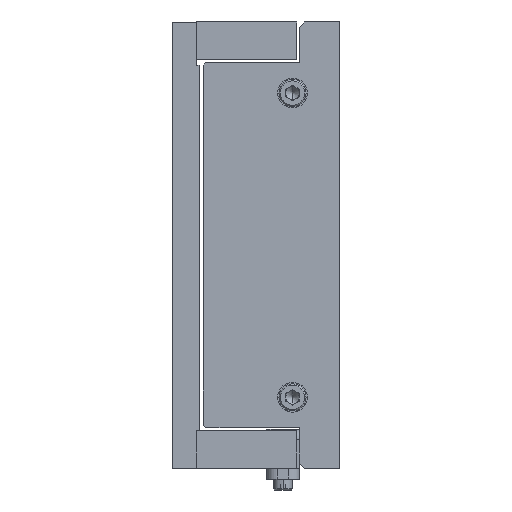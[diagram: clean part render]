
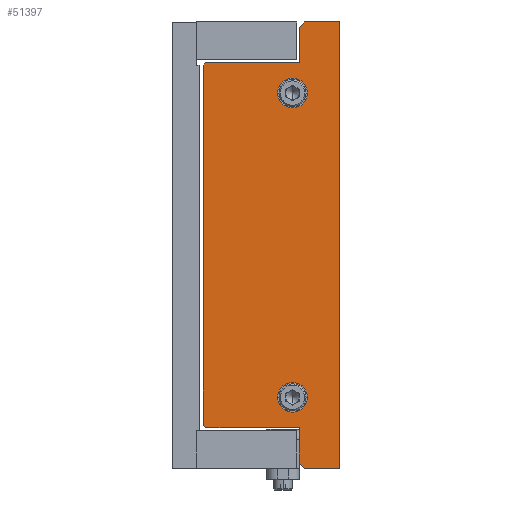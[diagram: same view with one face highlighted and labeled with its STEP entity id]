
A CAD part, left-side view. The second image highlights one B-rep face of the part: STEP entity #51397.
In plain terms, the highlighted planar face has unit normal (-1, 0, 0).
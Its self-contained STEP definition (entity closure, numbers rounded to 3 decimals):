
#367 = LINE ( 'NONE', #48267, #39254 ) ;
#448 = CARTESIAN_POINT ( 'NONE',  ( -190., 0.25, -82.5 ) ) ;
#1131 = DIRECTION ( 'NONE',  ( 0., 0., -1. ) ) ;
#1176 = VECTOR ( 'NONE', #30375, 1000. ) ;
#1195 = LINE ( 'NONE', #3545, #44614 ) ;
#1256 = CARTESIAN_POINT ( 'NONE',  ( -190., 13.05, 82.5 ) ) ;
#1514 = ORIENTED_EDGE ( 'NONE', *, *, #10775, .T. ) ;
#1838 = PLANE ( 'NONE',  #33743 ) ;
#2064 = VERTEX_POINT ( 'NONE', #3145 ) ;
#2677 = CARTESIAN_POINT ( 'NONE',  ( -190., 15., 67.5 ) ) ;
#2994 = ORIENTED_EDGE ( 'NONE', *, *, #3773, .T. ) ;
#3009 = LINE ( 'NONE', #26426, #5685 ) ;
#3145 = CARTESIAN_POINT ( 'NONE',  ( -190., 15., -80.55 ) ) ;
#3545 = CARTESIAN_POINT ( 'NONE',  ( -190., 15., 80.55 ) ) ;
#3636 = CARTESIAN_POINT ( 'NONE',  ( -190., 17.5, 56.25 ) ) ;
#3700 = DIRECTION ( 'NONE',  ( 0., 0., -1. ) ) ;
#3773 = EDGE_CURVE ( 'NONE', #25028, #47705, #367, .T. ) ;
#3816 = EDGE_CURVE ( 'NONE', #13489, #48065, #24059, .T. ) ;
#3974 = EDGE_CURVE ( 'NONE', #32602, #8993, #47093, .T. ) ;
#4600 = EDGE_CURVE ( 'NONE', #19305, #5435, #14645, .T. ) ;
#5091 = CARTESIAN_POINT ( 'NONE',  ( -190., 13.05, -82.5 ) ) ;
#5244 = CARTESIAN_POINT ( 'NONE',  ( -190., 17.5, -61.75 ) ) ;
#5377 = VECTOR ( 'NONE', #19258, 1000. ) ;
#5435 = VERTEX_POINT ( 'NONE', #25212 ) ;
#5685 = VECTOR ( 'NONE', #51818, 1000. ) ;
#6531 = VERTEX_POINT ( 'NONE', #8690 ) ;
#6757 = EDGE_CURVE ( 'NONE', #48065, #44880, #24448, .T. ) ;
#8468 = ORIENTED_EDGE ( 'NONE', *, *, #38602, .F. ) ;
#8690 = CARTESIAN_POINT ( 'NONE',  ( -190., 15., 80.55 ) ) ;
#8993 = VERTEX_POINT ( 'NONE', #21315 ) ;
#9022 = ORIENTED_EDGE ( 'NONE', *, *, #3816, .T. ) ;
#9173 = LINE ( 'NONE', #34431, #1176 ) ;
#9933 = LINE ( 'NONE', #40629, #5377 ) ;
#10765 = EDGE_LOOP ( 'NONE', ( #38325, #19122 ) ) ;
#10775 = EDGE_CURVE ( 'NONE', #26984, #47850, #3009, .T. ) ;
#10781 = ORIENTED_EDGE ( 'NONE', *, *, #3974, .T. ) ;
#11080 = LINE ( 'NONE', #13517, #54561 ) ;
#11762 = LINE ( 'NONE', #28450, #23531 ) ;
#12239 = AXIS2_PLACEMENT_3D ( 'NONE', #3636, #49614, #28637 ) ;
#12394 = ORIENTED_EDGE ( 'NONE', *, *, #6757, .T. ) ;
#12640 = EDGE_CURVE ( 'NONE', #47850, #32602, #9933, .T. ) ;
#13272 = VECTOR ( 'NONE', #44802, 1000. ) ;
#13489 = VERTEX_POINT ( 'NONE', #5091 ) ;
#13517 = CARTESIAN_POINT ( 'NONE',  ( -190., 15., 67.5 ) ) ;
#13751 = EDGE_CURVE ( 'NONE', #17470, #6531, #1195, .T. ) ;
#14645 = CIRCLE ( 'NONE', #12239, 5.5 ) ;
#15113 = ORIENTED_EDGE ( 'NONE', *, *, #39571, .T. ) ;
#16528 = LINE ( 'NONE', #47569, #46754 ) ;
#17265 = CARTESIAN_POINT ( 'NONE',  ( -190., 17.5, -56.25 ) ) ;
#17470 = VERTEX_POINT ( 'NONE', #1256 ) ;
#17569 = DIRECTION ( 'NONE',  ( 0., 0., 1. ) ) ;
#17673 = FACE_BOUND ( 'NONE', #10765, .T. ) ;
#18228 = DIRECTION ( 'NONE',  ( 0., 0., -1. ) ) ;
#19122 = ORIENTED_EDGE ( 'NONE', *, *, #31340, .F. ) ;
#19253 = AXIS2_PLACEMENT_3D ( 'NONE', #20908, #20549, #32814 ) ;
#19258 = DIRECTION ( 'NONE',  ( 0., 0.707, -0.707 ) ) ;
#19305 = VERTEX_POINT ( 'NONE', #51132 ) ;
#19664 = DIRECTION ( 'NONE',  ( 0., -0.707, -0.707 ) ) ;
#19707 = ORIENTED_EDGE ( 'NONE', *, *, #22516, .T. ) ;
#19756 = DIRECTION ( 'NONE',  ( 0., 0., -1. ) ) ;
#19777 = CIRCLE ( 'NONE', #48790, 5.5 ) ;
#19891 = ORIENTED_EDGE ( 'NONE', *, *, #39266, .F. ) ;
#20442 = ORIENTED_EDGE ( 'NONE', *, *, #13751, .T. ) ;
#20549 = DIRECTION ( 'NONE',  ( -1., 0., 0. ) ) ;
#20861 = VERTEX_POINT ( 'NONE', #5244 ) ;
#20908 = CARTESIAN_POINT ( 'NONE',  ( -190., 17.5, 56.25 ) ) ;
#21156 = DIRECTION ( 'NONE',  ( 0., 0., 1. ) ) ;
#21315 = CARTESIAN_POINT ( 'NONE',  ( -190., 50.5, -66.5 ) ) ;
#21348 = CARTESIAN_POINT ( 'NONE',  ( -190., 50.5, -66.5 ) ) ;
#21486 = LINE ( 'NONE', #32603, #39917 ) ;
#22516 = EDGE_CURVE ( 'NONE', #6531, #26984, #11080, .T. ) ;
#22531 = DIRECTION ( 'NONE',  ( 0., -1., 0. ) ) ;
#22632 = DIRECTION ( 'NONE',  ( 1., 0., 0. ) ) ;
#23531 = VECTOR ( 'NONE', #19664, 1000. ) ;
#23559 = FACE_OUTER_BOUND ( 'NONE', #32639, .T. ) ;
#24059 = LINE ( 'NONE', #35570, #49089 ) ;
#24448 = LINE ( 'NONE', #40661, #13272 ) ;
#25028 = VERTEX_POINT ( 'NONE', #41705 ) ;
#25212 = CARTESIAN_POINT ( 'NONE',  ( -190., 17.5, 50.75 ) ) ;
#26426 = CARTESIAN_POINT ( 'NONE',  ( -190., 49.5, 67.5 ) ) ;
#26984 = VERTEX_POINT ( 'NONE', #2677 ) ;
#27254 = CARTESIAN_POINT ( 'NONE',  ( -190., 50.5, 66.5 ) ) ;
#27878 = ORIENTED_EDGE ( 'NONE', *, *, #44009, .T. ) ;
#28133 = ORIENTED_EDGE ( 'NONE', *, *, #35623, .T. ) ;
#28450 = CARTESIAN_POINT ( 'NONE',  ( -190., 49.5, -67.5 ) ) ;
#28637 = DIRECTION ( 'NONE',  ( 0., 0., 1. ) ) ;
#30375 = DIRECTION ( 'NONE',  ( 0., 1., 0. ) ) ;
#30811 = DIRECTION ( 'NONE',  ( 0., -0.707, -0.707 ) ) ;
#31340 = EDGE_CURVE ( 'NONE', #5435, #19305, #50835, .T. ) ;
#31759 = CARTESIAN_POINT ( 'NONE',  ( -190., 17.5, -50.75 ) ) ;
#32602 = VERTEX_POINT ( 'NONE', #27254 ) ;
#32603 = CARTESIAN_POINT ( 'NONE',  ( -190., 15., -80.55 ) ) ;
#32639 = EDGE_LOOP ( 'NONE', ( #12394, #28133, #20442, #19707, #1514, #43346, #10781, #48762, #2994, #15113, #27878, #9022 ) ) ;
#32814 = DIRECTION ( 'NONE',  ( 0., 0., 1. ) ) ;
#32956 = DIRECTION ( 'NONE',  ( 0., 0.707, -0.707 ) ) ;
#33008 = EDGE_CURVE ( 'NONE', #8993, #25028, #11762, .T. ) ;
#33743 = AXIS2_PLACEMENT_3D ( 'NONE', #39225, #22632, #18228 ) ;
#34431 = CARTESIAN_POINT ( 'NONE',  ( -190., 13.05, 82.5 ) ) ;
#35570 = CARTESIAN_POINT ( 'NONE',  ( -190., 0.25, -82.5 ) ) ;
#35623 = EDGE_CURVE ( 'NONE', #44880, #17470, #9173, .T. ) ;
#37758 = VERTEX_POINT ( 'NONE', #31759 ) ;
#38325 = ORIENTED_EDGE ( 'NONE', *, *, #4600, .F. ) ;
#38602 = EDGE_CURVE ( 'NONE', #20861, #37758, #52724, .T. ) ;
#38720 = DIRECTION ( 'NONE',  ( -1., 0., 0. ) ) ;
#39225 = CARTESIAN_POINT ( 'NONE',  ( -190., 0., 0. ) ) ;
#39254 = VECTOR ( 'NONE', #39844, 1000. ) ;
#39266 = EDGE_CURVE ( 'NONE', #37758, #20861, #19777, .T. ) ;
#39571 = EDGE_CURVE ( 'NONE', #47705, #2064, #21486, .T. ) ;
#39844 = DIRECTION ( 'NONE',  ( 0., -1., 0. ) ) ;
#39917 = VECTOR ( 'NONE', #19756, 1000. ) ;
#40629 = CARTESIAN_POINT ( 'NONE',  ( -190., 50.5, 66.5 ) ) ;
#40661 = CARTESIAN_POINT ( 'NONE',  ( -190., 0.25, 82.5 ) ) ;
#41405 = FACE_BOUND ( 'NONE', #41818, .T. ) ;
#41705 = CARTESIAN_POINT ( 'NONE',  ( -190., 49.5, -67.5 ) ) ;
#41818 = EDGE_LOOP ( 'NONE', ( #19891, #8468 ) ) ;
#42690 = CARTESIAN_POINT ( 'NONE',  ( -190., 0.25, 82.5 ) ) ;
#42711 = CARTESIAN_POINT ( 'NONE',  ( -190., 15., -67.5 ) ) ;
#43346 = ORIENTED_EDGE ( 'NONE', *, *, #12640, .T. ) ;
#44009 = EDGE_CURVE ( 'NONE', #2064, #13489, #16528, .T. ) ;
#44614 = VECTOR ( 'NONE', #32956, 1000. ) ;
#44802 = DIRECTION ( 'NONE',  ( 0., 0., 1. ) ) ;
#44880 = VERTEX_POINT ( 'NONE', #42690 ) ;
#46686 = DIRECTION ( 'NONE',  ( -1., 0., 0. ) ) ;
#46754 = VECTOR ( 'NONE', #30811, 1000. ) ;
#47093 = LINE ( 'NONE', #21348, #52987 ) ;
#47569 = CARTESIAN_POINT ( 'NONE',  ( -190., 13.05, -82.5 ) ) ;
#47705 = VERTEX_POINT ( 'NONE', #42711 ) ;
#47850 = VERTEX_POINT ( 'NONE', #53274 ) ;
#48065 = VERTEX_POINT ( 'NONE', #448 ) ;
#48267 = CARTESIAN_POINT ( 'NONE',  ( -190., 15., -67.5 ) ) ;
#48762 = ORIENTED_EDGE ( 'NONE', *, *, #33008, .T. ) ;
#48790 = AXIS2_PLACEMENT_3D ( 'NONE', #50859, #38720, #17569 ) ;
#49089 = VECTOR ( 'NONE', #22531, 1000. ) ;
#49135 = AXIS2_PLACEMENT_3D ( 'NONE', #17265, #46686, #21156 ) ;
#49614 = DIRECTION ( 'NONE',  ( -1., 0., 0. ) ) ;
#50835 = CIRCLE ( 'NONE', #19253, 5.5 ) ;
#50859 = CARTESIAN_POINT ( 'NONE',  ( -190., 17.5, -56.25 ) ) ;
#51132 = CARTESIAN_POINT ( 'NONE',  ( -190., 17.5, 61.75 ) ) ;
#51397 = ADVANCED_FACE ( 'NONE', ( #41405, #17673, #23559 ), #1838, .F. ) ;
#51818 = DIRECTION ( 'NONE',  ( 0., 1., 0. ) ) ;
#52724 = CIRCLE ( 'NONE', #49135, 5.5 ) ;
#52987 = VECTOR ( 'NONE', #3700, 1000. ) ;
#53274 = CARTESIAN_POINT ( 'NONE',  ( -190., 49.5, 67.5 ) ) ;
#54561 = VECTOR ( 'NONE', #1131, 1000. ) ;
